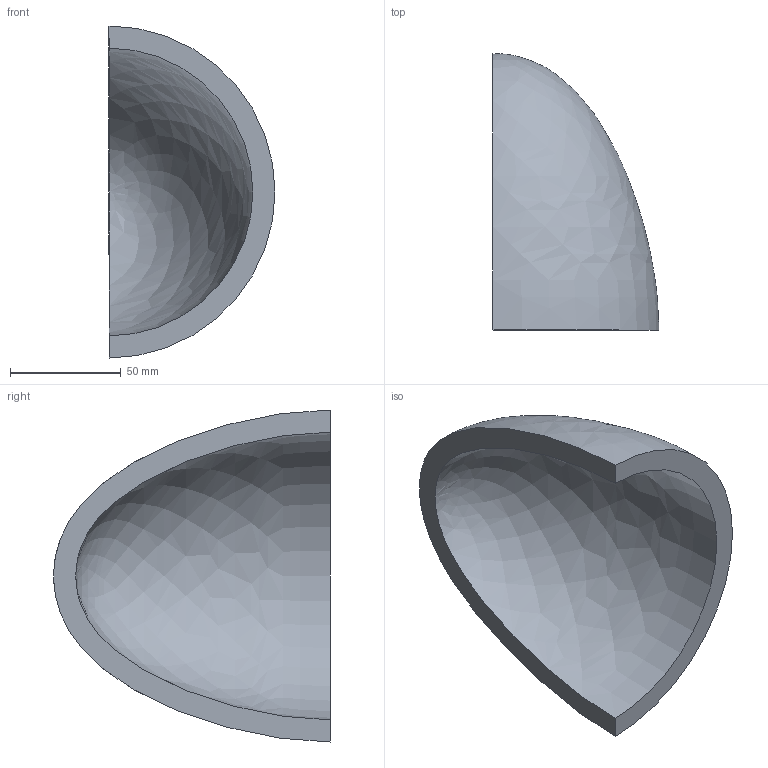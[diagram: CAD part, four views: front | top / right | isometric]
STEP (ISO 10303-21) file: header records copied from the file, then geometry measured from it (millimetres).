
FILE_DESCRIPTION(('CATIA V5 STEP Exchange'),'2;1');
FILE_NAME('C:\_Andres\UNIVERSIDAD\IQS\ASIGNATURAS\DAO\EXF\EXF-16172c\2inicio\Quiroga_Garcia_Ej10_v25.stp','2017-03-05T22:31:14+00:00',('none'),('none'),'CATIA Version 5-6 Release 2014 SP1 HF18','CATIA V5 STEP AP203','none');
FILE_SCHEMA(('CONFIG_CONTROL_DESIGN'));
Length unit declared in the file: millimetre
Products named in the file (1): Quiroga_Garcia_Ej10_v25
Bounding box: 75 x 125 x 150 mm (x, y, z)
Volume: 226597.9 mm3; surface area: 50643.8 mm2
Topology: 1 solids, 1 shells, 4 faces, 10 edges, 6 vertices
Faces by surface type: revolution 2, plane 2
Entity records: 248 total; most frequent: CARTESIAN_POINT 126, ORIENTED_EDGE 16, DIRECTION 10, EDGE_CURVE 8, B_SPLINE_CURVE_WITH_KNOTS 6, VERTEX_POINT 6, AXIS2_PLACEMENT_3D 5, ADVANCED_FACE 4
